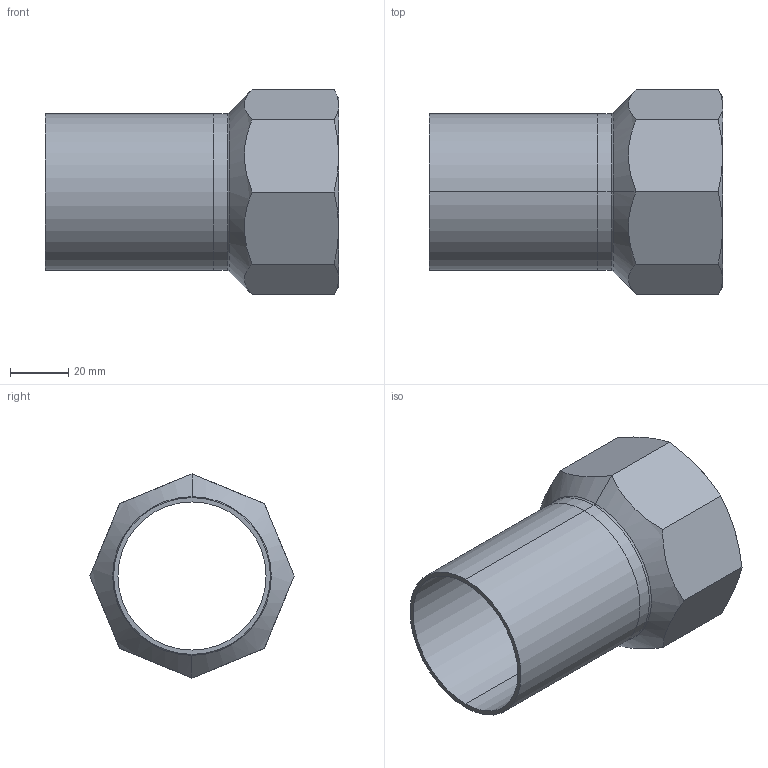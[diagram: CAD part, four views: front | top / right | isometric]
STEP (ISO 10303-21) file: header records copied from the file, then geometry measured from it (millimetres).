
FILE_DESCRIPTION (( 'STEP AP203' ), '1' );
FILE_NAME ('GDA6397.STEP', '2019-07-03T03:55:45', ( '' ), ( '' ), 'SwSTEP 2.0', 'SolidWorks 2015', '' );
FILE_SCHEMA (( 'CONFIG_CONTROL_DESIGN' ));
Length unit declared in the file: millimetre
Products named in the file (3): GDA6397; 54眻奪; OD54｡ﾁ2
Assembly tree (2 placements, depth 2):
  GDA6397
    OD54｡ﾁ2
    54眻奪
Bounding box: 101 x 70.36 x 70.36 mm (x, y, z)
Volume: 50031.6 mm3; surface area: 37674 mm2
Topology: 2 solids, 2 shells, 39 faces, 84 edges, 49 vertices
Faces by surface type: cone 15, plane 12, cylinder 10, torus 2
Entity records: 1510 total; most frequent: CARTESIAN_POINT 377, DIRECTION 183, ORIENTED_EDGE 168, EDGE_CURVE 84, AXIS2_PLACEMENT_3D 79, VERTEX_POINT 49, EDGE_LOOP 43, FACE_OUTER_BOUND 39
